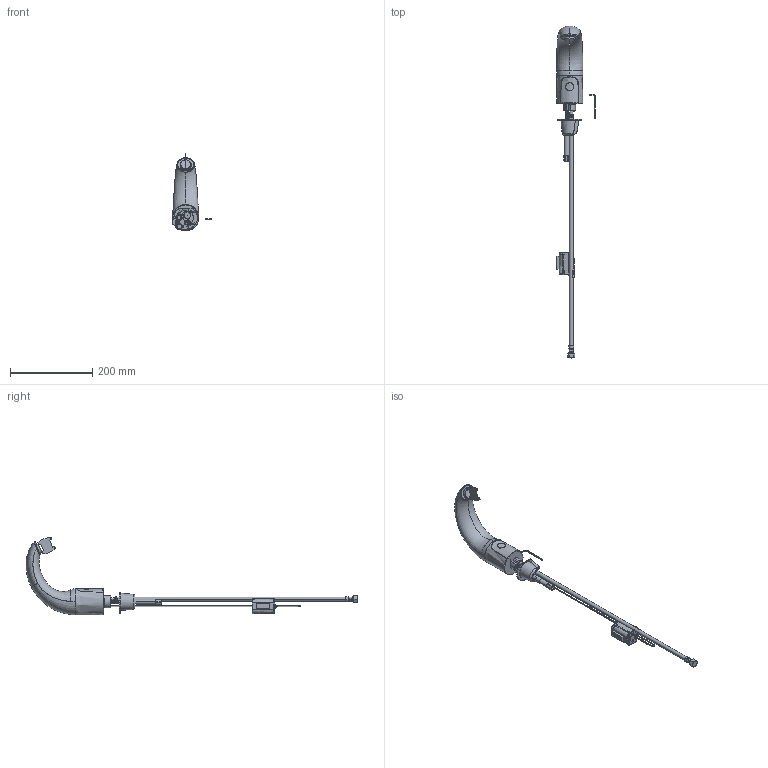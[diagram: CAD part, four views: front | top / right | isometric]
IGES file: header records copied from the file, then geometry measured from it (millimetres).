
Start section:  PTC IGES file: 116-664-ab-1t_REV062122.igs
Global section: file name: 116-664-ab-1t_REV062122.igs; native system: Creo Parametric by PTC Inc.; preprocessor: 2021184; author: rodjo; organization: Unknown; date: 20220621.091355; units: inch
Bounding box: 94.26 x 807.9 x 189.14 mm (x, y, z)
Surface area: 125805.4 mm2 (no closed solid volume)
Topology: 0 solids, 0 shells, 657 faces, 6366 edges, 8899 vertices
Faces by surface type: revolution 381, bspline 276
